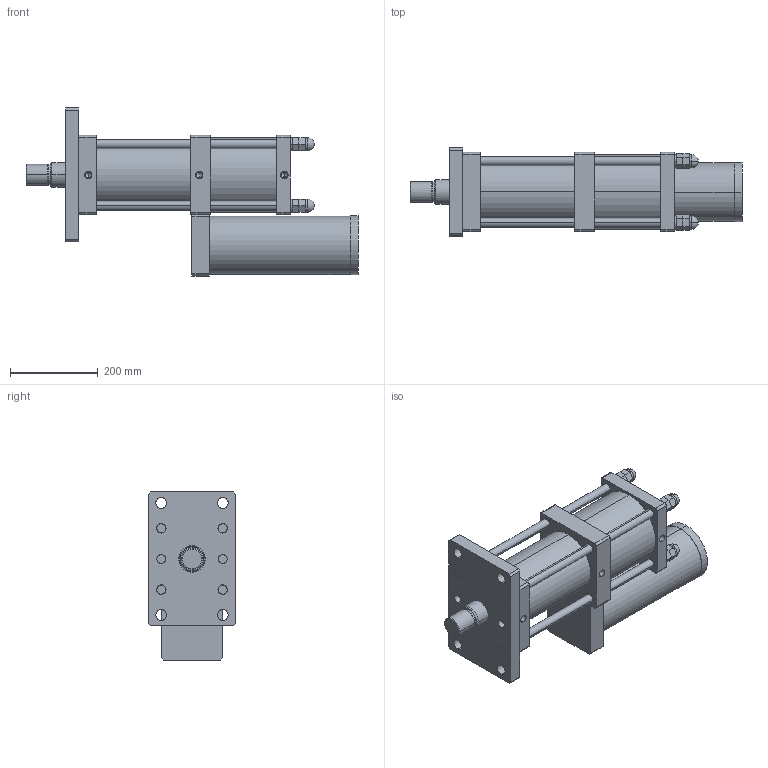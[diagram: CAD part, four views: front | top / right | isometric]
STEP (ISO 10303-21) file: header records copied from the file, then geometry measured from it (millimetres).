
FILE_DESCRIPTION (( 'STEP AP203' ), '1' );
FILE_NAME ('CPT-125-150-5-20T.STEP', '2016-03-12T01:57:24', ( 'WIN' ), ( '' ), 'SwSTEP 2.0', 'SolidWorks 2014', '' );
FILE_SCHEMA (( 'CONFIG_CONTROL_DESIGN' ));
Length unit declared in the file: millimetre
Products named in the file (1): CPT-125-150-5-20T
Bounding box: 755.5 x 200 x 382.5 mm (x, y, z)
Volume: 14671855.6 mm3; surface area: 1184593.6 mm2
Topology: 17 solids, 17 shells, 320 faces, 732 edges, 458 vertices
Faces by surface type: plane 154, cylinder 124, cone 30, sphere 8, torus 4
Entity records: 8963 total; most frequent: DIRECTION 1652, CARTESIAN_POINT 1479, ORIENTED_EDGE 1416, EDGE_CURVE 708, AXIS2_PLACEMENT_3D 623, VERTEX_POINT 450, VECTOR 406, LINE 406
